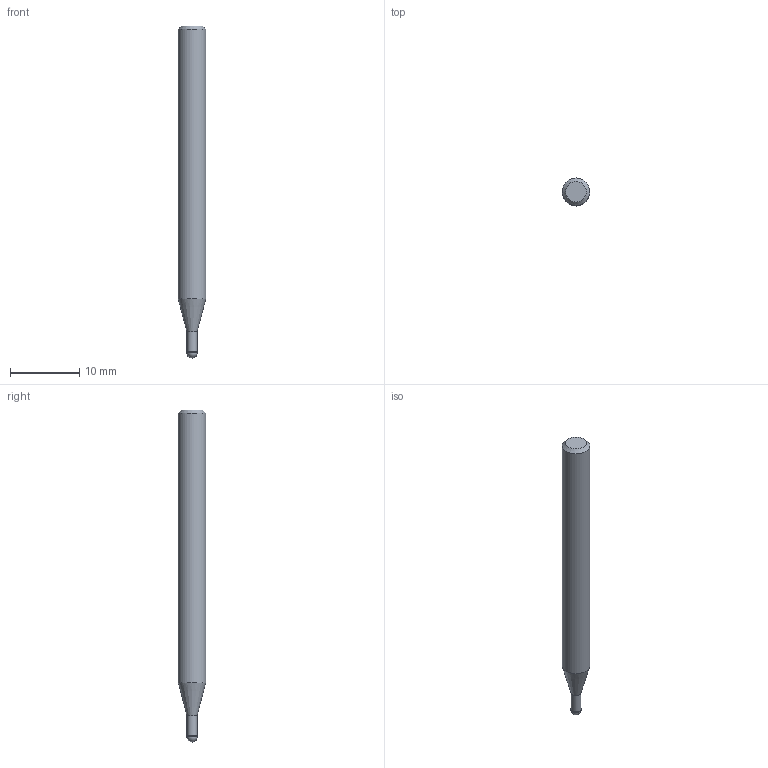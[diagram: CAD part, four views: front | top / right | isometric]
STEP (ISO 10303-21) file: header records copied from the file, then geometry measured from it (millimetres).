
FILE_DESCRIPTION((''),'2;1');
FILE_NAME('C:\Users\nsx150\AppData\Local\Temp\Mastercam 2021\ZQ9VQTH2U1\TEMP.step','2021-10-21T11:06:21',(''),(''),'STEP Write','Mastercam 2021 ... CNC Software, Inc.','');
FILE_SCHEMA(('AUTOMOTIVE_DESIGN'));
Length unit declared in the file: millimetre
Products named in the file (1): None
Bounding box: 4 x 4 x 48 mm (x, y, z)
Volume: 529.9 mm3; surface area: 567.2 mm2
Topology: 2 solids, 2 shells, 9 faces, 14 edges, 8 vertices
Faces by surface type: plane 3, cylinder 3, cone 2, sphere 1
Full cylindrical faces by diameter (mm): 1.45 x1, 1.5 x1, 4 x1
Entity records: 211 total; most frequent: DIRECTION 36, CARTESIAN_POINT 25, AXIS2_PLACEMENT_3D 18, ORIENTED_EDGE 14, EDGE_LOOP 14, STYLED_ITEM 12, ADVANCED_FACE 9, FACE_BOUND 8
